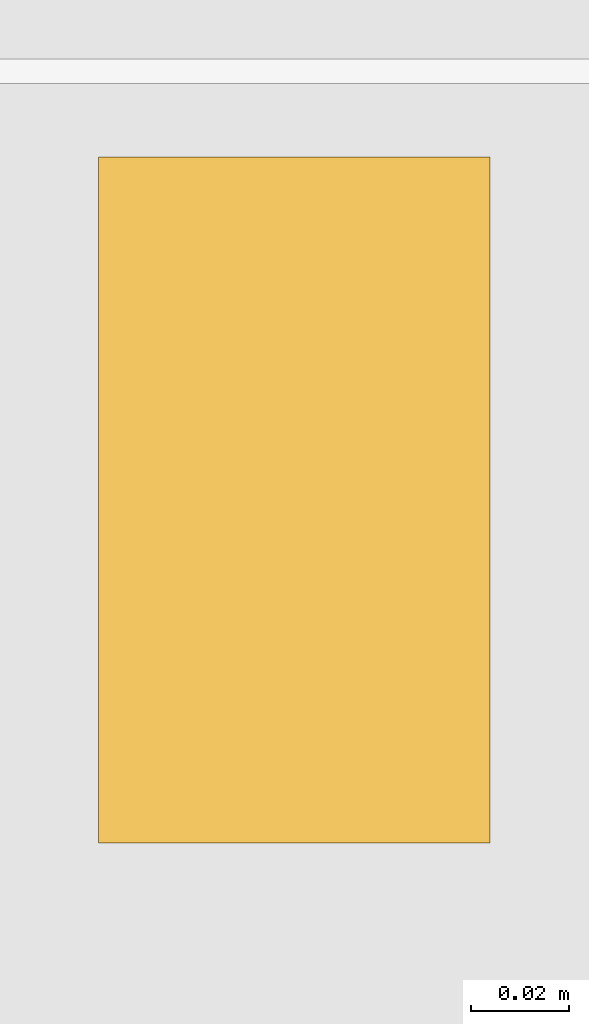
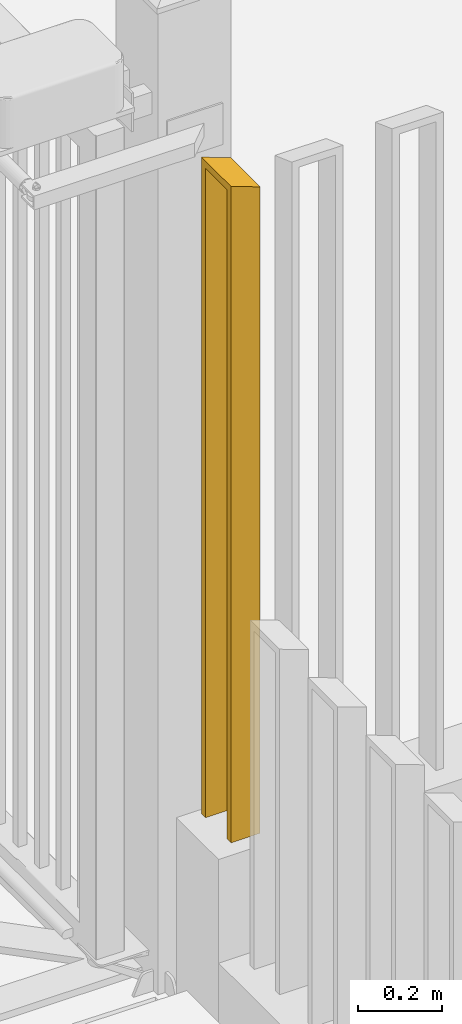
# One storey, part 68 of 77: 1 railing.
"""IFC2X3 building model written with IfcOpenShell, lengths in millimetres."""

from ifc_helpers import new_model, entity, si_unit, converted_unit, derived_unit, direction, frame, origin, place, context, subcontext, project, spatial, faceted_brep, material, element, save


model = new_model("IFC2X3")

# Units and contexts
model_context = context("Model", 3, precision=0.01, world=origin(), true_north=direction((6.12303176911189e-17, 1.0)))
body_context = subcontext(model_context, "Body", "Model", "MODEL_VIEW")
ifc_project = project(units=[si_unit("LENGTHUNIT", "METRE", prefix="MILLI"), si_unit("AREAUNIT", "SQUARE_METRE"), si_unit("VOLUMEUNIT", "CUBIC_METRE"), converted_unit("PLANEANGLEUNIT", "DEGREE", entity("IfcRatioMeasure", 0.0174532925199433), si_unit("PLANEANGLEUNIT", "RADIAN"), dimensions=[0, 0, 0, 0, 0, 0, 0]), si_unit("MASSUNIT", "GRAM", prefix="KILO"), derived_unit("MASSDENSITYUNIT", [(si_unit("MASSUNIT", "GRAM", prefix="KILO"), 1), (si_unit("LENGTHUNIT", "METRE"), -3)]), si_unit("TIMEUNIT", "SECOND"), si_unit("FREQUENCYUNIT", "HERTZ"), si_unit("THERMODYNAMICTEMPERATUREUNIT", "DEGREE_CELSIUS"), derived_unit("THERMALTRANSMITTANCEUNIT", [(si_unit("MASSUNIT", "GRAM", prefix="KILO"), 1), (si_unit("THERMODYNAMICTEMPERATUREUNIT", "KELVIN"), -1), (si_unit("TIMEUNIT", "SECOND"), -3)]), derived_unit("VOLUMETRICFLOWRATEUNIT", [(si_unit("LENGTHUNIT", "METRE"), 3), (si_unit("TIMEUNIT", "SECOND"), -1)]), si_unit("ELECTRICCURRENTUNIT", "AMPERE"), si_unit("ELECTRICVOLTAGEUNIT", "VOLT"), si_unit("POWERUNIT", "WATT"), si_unit("FORCEUNIT", "NEWTON", prefix="KILO"), si_unit("ILLUMINANCEUNIT", "LUX"), si_unit("LUMINOUSFLUXUNIT", "LUMEN"), si_unit("LUMINOUSINTENSITYUNIT", "CANDELA"), derived_unit("USERDEFINED", [(si_unit("MASSUNIT", "GRAM", prefix="KILO"), -1), (si_unit("LENGTHUNIT", "METRE"), -2), (si_unit("TIMEUNIT", "SECOND"), 3), (si_unit("LUMINOUSFLUXUNIT", "LUMEN"), 1)]), derived_unit("LINEARVELOCITYUNIT", [(si_unit("LENGTHUNIT", "METRE"), 1), (si_unit("TIMEUNIT", "SECOND"), -1)]), si_unit("PRESSUREUNIT", "PASCAL"), derived_unit("USERDEFINED", [(si_unit("LENGTHUNIT", "METRE"), -2), (si_unit("MASSUNIT", "GRAM", prefix="KILO"), 1), (si_unit("TIMEUNIT", "SECOND"), -2)])], contexts=[model_context])

# Site, building, storey
site_placement = place(None, origin())
site = spatial("IfcSite", under=ifc_project, at=site_placement, Name="Default", CompositionType="ELEMENT")
building_placement = place(site_placement, origin())
building = spatial("IfcBuilding", under=site, at=building_placement, CompositionType="ELEMENT")
storey_placement = place(building_placement, origin())
storey = spatial("IfcBuildingStorey", under=building, at=storey_placement, Name="1. KORRUS", CompositionType="ELEMENT", Elevation=0.0)

# Railing
ifc_material = material(Name="Default New Material(4)")
railing_placement = place(storey_placement, frame((-16540.0, 27894.9994344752, 550.0)))
element("IfcRailing", 1, at=railing_placement, inside=storey, material=ifc_material, Name="Railing:2m 1 kaar", ObjectType="Railing:2m 1 kaar", PredefinedType="NOTDEFINED", context=body_context, shape_type="Brep", body=[
    faceted_brep([(0.0, 0.0, 0.0), (80.0, 0.0, 0.0), (80.0, 0.0, 1870.8823812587), (0.0, 0.0, 1900.0), (0.0, 140.0, 1900.0), (0.0, 140.0, 0.0), (0.0, 120.0, 0.0), (0.0, 120.0, 1878.71644455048), (0.0, 20.0, 1878.71644455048), (0.0, 20.0, 0.0), (80.0, 20.0, 0.0), (80.0, 20.0, 1849.59882580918), (80.0, 120.0, 1849.59882580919), (80.0, 120.0, 0.0), (80.0, 140.0, 0.0), (80.0, 140.0, 1870.8823812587)], [[[0, 1, 2, 3]], [[3, 4, 5, 6, 7, 8, 9, 0]], [[1, 10, 11, 12, 13, 14, 15, 2]], [[0, 9, 10, 1]], [[9, 8, 11, 10]], [[13, 12, 7, 6]], [[6, 5, 14, 13]], [[5, 4, 15, 14]], [[2, 15, 4, 3]], [[11, 8, 7, 12]]]),
])

save(model, "model.ifc")
